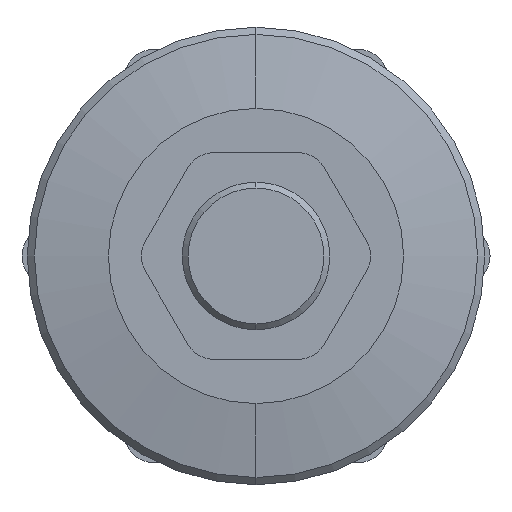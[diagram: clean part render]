
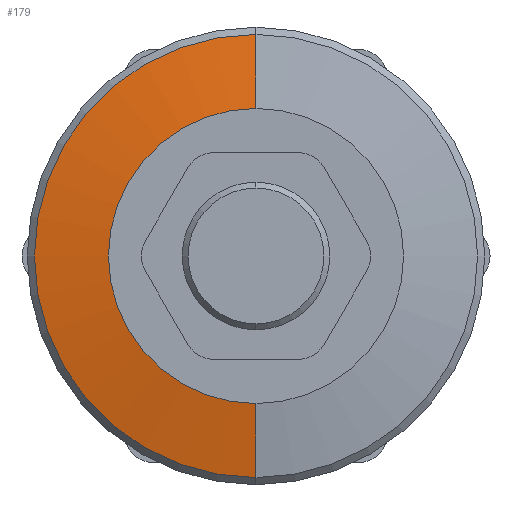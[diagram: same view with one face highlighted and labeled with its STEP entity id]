
A CAD part, left-side view. The second image highlights one B-rep face of the part: STEP entity #179.
In plain terms, the highlighted conical face has half-angle 80 degrees and reference radius 7.75 mm.
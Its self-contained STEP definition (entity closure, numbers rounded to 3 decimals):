
#8 = LINE ( 'NONE', #1390, #1077 ) ;
#109 = CARTESIAN_POINT ( 'NONE',  ( 16.2, 0., 5. ) ) ;
#112 = VECTOR ( 'NONE', #1365, 1000. ) ;
#115 = CARTESIAN_POINT ( 'NONE',  ( 16.2, 0., 0. ) ) ;
#165 = CARTESIAN_POINT ( 'NONE',  ( 16.685, 0., 7.75 ) ) ;
#179 = ADVANCED_FACE ( 'NONE', ( #1679 ), #931, .T. ) ;
#253 = DIRECTION ( 'NONE',  ( 0., 0., 1. ) ) ;
#366 = ORIENTED_EDGE ( 'NONE', *, *, #758, .T. ) ;
#482 = LINE ( 'NONE', #165, #112 ) ;
#499 = CARTESIAN_POINT ( 'NONE',  ( 16.685, 0., 0. ) ) ;
#507 = DIRECTION ( 'NONE',  ( 1., 0., 0. ) ) ;
#521 = DIRECTION ( 'NONE',  ( 0., 0., -1. ) ) ;
#562 = VERTEX_POINT ( 'NONE', #109 ) ;
#569 = ORIENTED_EDGE ( 'NONE', *, *, #968, .F. ) ;
#572 = DIRECTION ( 'NONE',  ( -1., 0., 0. ) ) ;
#616 = AXIS2_PLACEMENT_3D ( 'NONE', #499, #507, #521 ) ;
#627 = CARTESIAN_POINT ( 'NONE',  ( 16.642, 0., -7.507 ) ) ;
#721 = AXIS2_PLACEMENT_3D ( 'NONE', #1351, #572, #1483 ) ;
#758 = EDGE_CURVE ( 'NONE', #1669, #1643, #763, .T. ) ;
#763 = CIRCLE ( 'NONE', #721, 7.507 ) ;
#787 = AXIS2_PLACEMENT_3D ( 'NONE', #115, #1047, #253 ) ;
#848 = CARTESIAN_POINT ( 'NONE',  ( 16.2, 0., -5. ) ) ;
#931 = CONICAL_SURFACE ( 'NONE', #616, 7.75, 1.396 ) ;
#968 = EDGE_CURVE ( 'NONE', #1480, #1643, #8, .T. ) ;
#1005 = CARTESIAN_POINT ( 'NONE',  ( 16.642, 0., 7.507 ) ) ;
#1047 = DIRECTION ( 'NONE',  ( -1., 0., 0. ) ) ;
#1066 = ORIENTED_EDGE ( 'NONE', *, *, #1443, .T. ) ;
#1077 = VECTOR ( 'NONE', #1124, 1000. ) ;
#1124 = DIRECTION ( 'NONE',  ( 0.174, 0., -0.985 ) ) ;
#1166 = ORIENTED_EDGE ( 'NONE', *, *, #1200, .F. ) ;
#1200 = EDGE_CURVE ( 'NONE', #562, #1480, #1406, .T. ) ;
#1351 = CARTESIAN_POINT ( 'NONE',  ( 16.642, 0., 0. ) ) ;
#1365 = DIRECTION ( 'NONE',  ( 0.174, 0., 0.985 ) ) ;
#1390 = CARTESIAN_POINT ( 'NONE',  ( 16.685, 0., -7.75 ) ) ;
#1406 = CIRCLE ( 'NONE', #787, 5. ) ;
#1443 = EDGE_CURVE ( 'NONE', #562, #1669, #482, .T. ) ;
#1480 = VERTEX_POINT ( 'NONE', #848 ) ;
#1483 = DIRECTION ( 'NONE',  ( 0., 0., 1. ) ) ;
#1615 = EDGE_LOOP ( 'NONE', ( #1166, #1066, #366, #569 ) ) ;
#1643 = VERTEX_POINT ( 'NONE', #627 ) ;
#1669 = VERTEX_POINT ( 'NONE', #1005 ) ;
#1679 = FACE_OUTER_BOUND ( 'NONE', #1615, .T. ) ;
